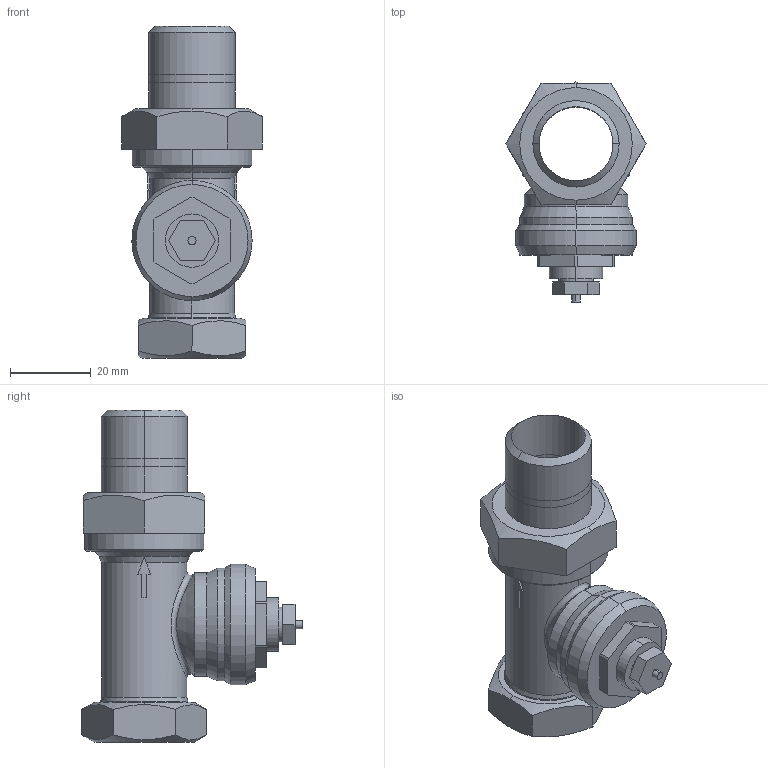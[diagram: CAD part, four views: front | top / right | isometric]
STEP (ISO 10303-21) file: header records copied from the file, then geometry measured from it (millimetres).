
FILE_DESCRIPTION((''),'2;1');
FILE_NAME('000051.stp','2006-09-29T17:14:18',(''),(''),'Mechanical Desktop 2006','Mechanical Desktop 2006',', , ');
FILE_SCHEMA(('AUTOMOTIVE_DESIGN { 1 2 10303 214 0 1 1 1 }'));
Length unit declared in the file: millimetre
Products named in the file (1): Product
Bounding box: 34.64 x 54.38 x 82 mm (x, y, z)
Volume: 27273.8 mm3; surface area: 16136.4 mm2
Topology: 10 solids, 10 shells, 124 faces, 281 edges, 179 vertices
Faces by surface type: plane 56, cylinder 32, cone 26, bspline 10
Entity records: 3827 total; most frequent: CARTESIAN_POINT 1007, DIRECTION 577, ORIENTED_EDGE 562, EDGE_CURVE 281, AXIS2_PLACEMENT_3D 213, VERTEX_POINT 179, VECTOR 151, LINE 151
